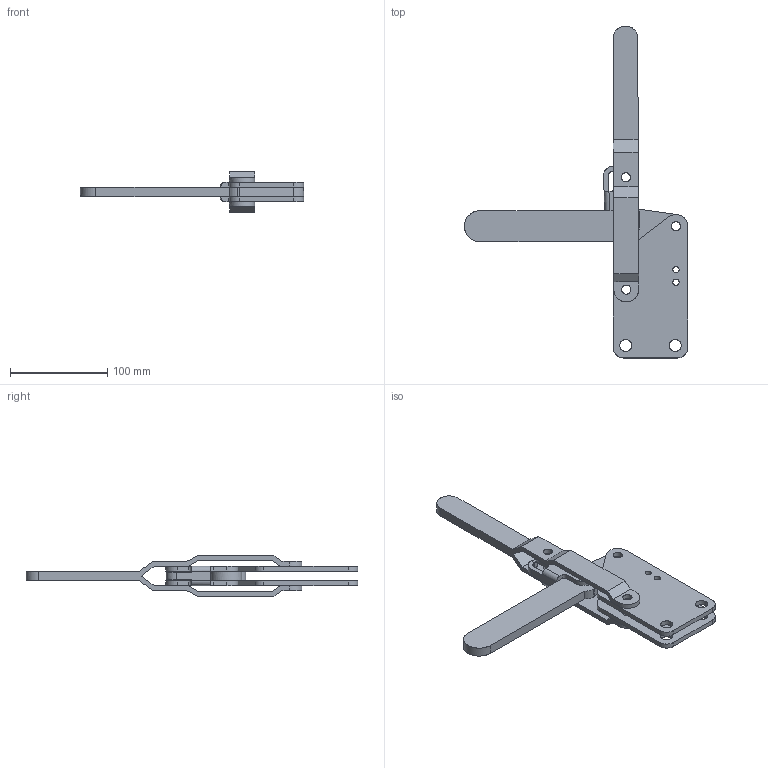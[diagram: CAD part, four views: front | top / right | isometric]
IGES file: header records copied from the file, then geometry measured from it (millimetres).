
Start section: Comment
Global section: file name: 101jsi.igs; native system:  By Spatial Corp.; preprocessor: XPlus PS/IGES 3.0; author: Author; organization: Title; date: 20050216.163607; units: inch
Bounding box: 229.18 x 340.78 x 42 mm (x, y, z)
Surface area: 102254.7 mm2 (no closed solid volume)
Topology: 0 solids, 0 shells, 140 faces, 788 edges, 788 vertices
Faces by surface type: revolution 75, extrusion 65
